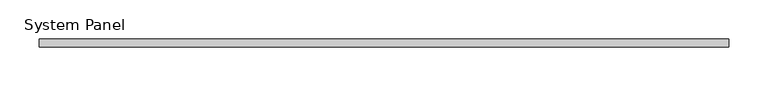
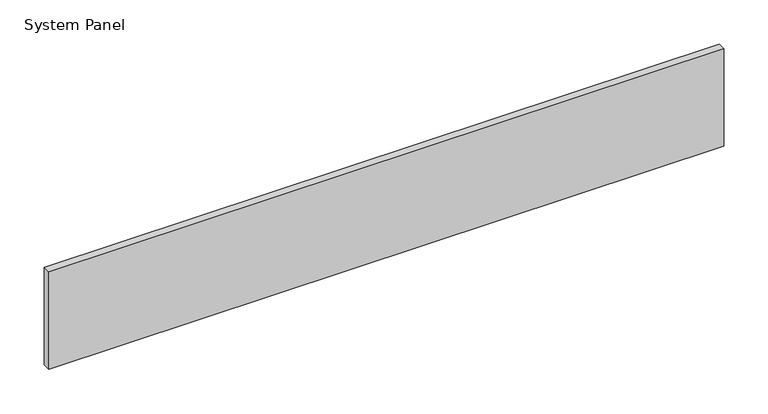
"""IFC4 building model written with IfcOpenShell, lengths in millimetres: plate geometry, System Panel : VACÍO."""

from ifc_helpers import new_model, si_unit, origin, origin_with_axes, place, context, project, spatial, polyline, outline, extrude, source, transform, mapped, element, save


def system_panel_525f9dc7(model_context):
    return source(origin(), model_context, "Body", "SweptSolid", [
        extrude(outline(polyline([(439.0218271, -5.0), (-439.0218271, -5.0), (-439.0218271, 5.0), (439.0218271, 5.0), (439.0218271, -5.0)])), origin_with_axes(), (0.0, 0.0, 1.0), 134.0),
    ])


if __name__ == "__main__":
    model = new_model("IFC4")
    model_context = context("Model", 3, world=origin())
    ifc_project = project(units=[si_unit("LENGTHUNIT", "METRE", prefix="MILLI")], contexts=[model_context])
    site = spatial("IfcSite", under=ifc_project)
    building = spatial("IfcBuilding", under=site)
    placement = place(None, origin())
    system_panel_shape = system_panel_525f9dc7(model_context)
    element("IfcPlate", 1, ObjectType="System Panel : VACÍO", at=placement, inside=building, context=model_context, shape_type="MappedRepresentation", body=[
        mapped(system_panel_shape, transform((0.0, 0.0, 0.0), x_axis=(1.0, 0.0, 0.0), y_axis=(0.0, 1.0, 0.0), z_axis=(0.0, 0.0, 1.0))),
    ])
    save(model, "model.ifc")
